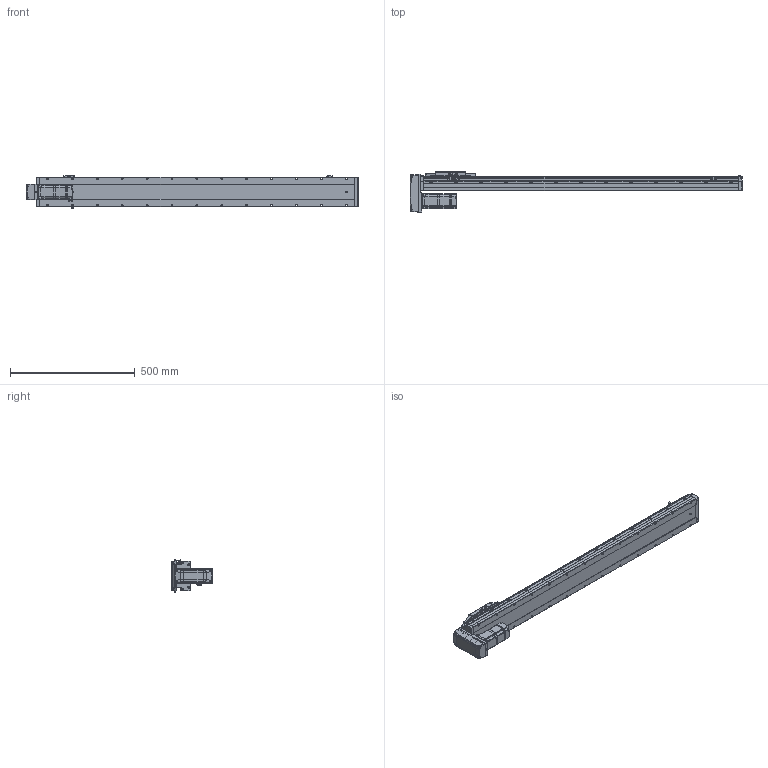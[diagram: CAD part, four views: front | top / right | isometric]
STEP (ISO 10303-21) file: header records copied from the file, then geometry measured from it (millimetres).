
FILE_DESCRIPTION (( 'STEP AP214' ), '1' );
FILE_NAME ('CTH12-L10-S1050-BM-C40（简）.STEP', '2023-02-04T06:41:00', ( '' ), ( '' ), 'SwSTEP 2.0', 'SolidWorks 2018', '' );
FILE_SCHEMA (( 'AUTOMOTIVE_DESIGN' ));
Length unit declared in the file: millimetre
Products named in the file (25): 内六角圆柱头螺钉M3-1; CTH12_body_3; CTH12底座-L1261简（1050行程）; 湮賑怢  裔赽-1(CTH12)賑怢; 内六角圆柱头螺钉M3; 内六角圆柱头螺钉M5装饰螺钉; PM-Y45; AC60_Valor predeterminado; 内六角圆柱头螺钉M3-2; CTH8耜蚾蟀諉啣ㄗ潠ㄘ; CTH12-L10-S1050-BM-C40（简）; CTH12賑怢郪磁; hex nuts, style 1-grades ab gb_GB_FASTENER_NUT_SNAB1 M3-N; CTH12-BL_body_4; 嫖萇羲壽郪磁2; CTH嫖萇羲壽假蚾啣; CTH400W垫板（3个厚）; CTH12覜茼え; CTH400W假蚾啣; CTH12賑怢ㄗ潠ㄘ; BM-C40; CTH12-BM-02; 蚐郲; CTH12; 嫖萇羲壽郪磁1
Assembly tree (45 placements, depth 4):
  CTH12-L10-S1050-BM-C40（简）
    CTH12底座-L1261简（1050行程）
    蚐郲  x2
    CTH12_body_3
    CTH12-BL_body_4
    CTH12賑怢郪磁
      CTH12
        湮賑怢  裔赽-1(CTH12)賑怢
        CTH12賑怢ㄗ潠ㄘ
    CTH12覜茼え
    嫖萇羲壽郪磁1  x2
      CTH嫖萇羲壽假蚾啣
      PM-Y45
      内六角圆柱头螺钉M3-2
      内六角圆柱头螺钉M3-1
      hex nuts, style 1-grades ab gb_GB_FASTENER_NUT_SNAB1 M3-N
    嫖萇羲壽郪磁2
      CTH嫖萇羲壽假蚾啣
      PM-Y45
      内六角圆柱头螺钉M3-1  x2
      内六角圆柱头螺钉M3-2  x2
      hex nuts, style 1-grades ab gb_GB_FASTENER_NUT_SNAB1 M3-N  x2
    BM-C40
      CTH12-BM-02
      CTH8耜蚾蟀諉啣ㄗ潠ㄘ
    CTH400W垫板（3个厚）
    AC60_Valor predeterminado
    内六角圆柱头螺钉M3  x6
    内六角圆柱头螺钉M5装饰螺钉  x4
    CTH400W假蚾啣
Bounding box: 1331.5 x 162.5 x 131.52 mm (x, y, z)
Volume: 8898652.2 mm3; surface area: 783878.5 mm2
Topology: 47 solids, 48 shells, 2952 faces, 7488 edges, 4755 vertices
Faces by surface type: plane 1566, cylinder 865, cone 351, bspline 118, torus 52
Entity records: 82593 total; most frequent: CARTESIAN_POINT 19997, ORIENTED_EDGE 12156, DIRECTION 12079, EDGE_CURVE 6078, AXIS2_PLACEMENT_3D 4123, VERTEX_POINT 3859, VECTOR 3833, LINE 3833
